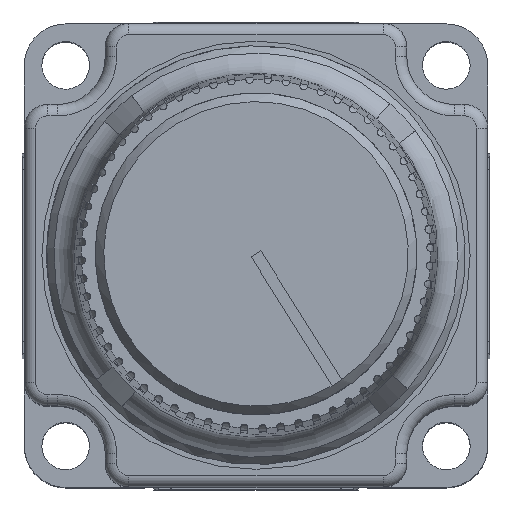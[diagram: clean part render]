
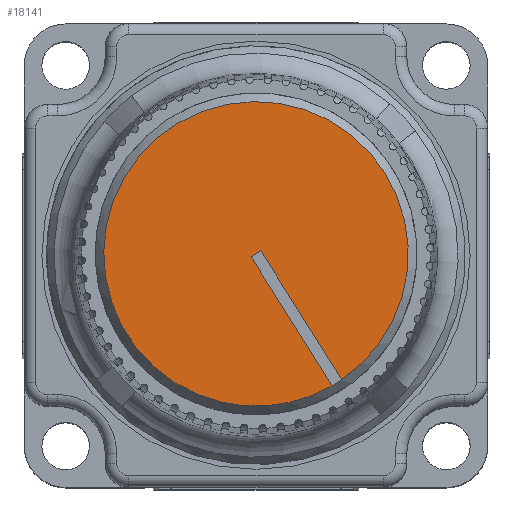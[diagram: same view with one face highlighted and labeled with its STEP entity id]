
A CAD part, top view. The second image highlights one B-rep face of the part: STEP entity #18141.
In plain terms, the highlighted planar face has unit normal (0, 0, 1).
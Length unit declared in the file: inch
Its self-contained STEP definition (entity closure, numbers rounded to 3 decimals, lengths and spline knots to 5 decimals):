
#954=PLANE('',#20078);
#1830=FACE_OUTER_BOUND('',#2928,.T.);
#2928=EDGE_LOOP('',(#14701,#14702,#14703,#14704,#14705));
#3812=CIRCLE('',#20074,0.4);
#3813=CIRCLE('',#20075,0.4);
#4892=LINE('',#35381,#6084);
#4897=LINE('',#35400,#6089);
#4900=LINE('',#35405,#6092);
#6084=VECTOR('',#24711,0.3937);
#6089=VECTOR('',#24722,0.3937);
#6092=VECTOR('',#24727,0.3937);
#7884=VERTEX_POINT('',#35379);
#7885=VERTEX_POINT('',#35380);
#7888=VERTEX_POINT('',#35393);
#7890=VERTEX_POINT('',#35399);
#7892=VERTEX_POINT('',#35409);
#10201=EDGE_CURVE('',#7884,#7885,#4892,.T.);
#10208=EDGE_CURVE('',#7890,#7888,#4897,.T.);
#10211=EDGE_CURVE('',#7885,#7890,#4900,.T.);
#10213=EDGE_CURVE('',#7888,#7892,#3812,.T.);
#10214=EDGE_CURVE('',#7892,#7884,#3813,.T.);
#14701=ORIENTED_EDGE('',*,*,#10208,.T.);
#14702=ORIENTED_EDGE('',*,*,#10213,.T.);
#14703=ORIENTED_EDGE('',*,*,#10214,.T.);
#14704=ORIENTED_EDGE('',*,*,#10201,.T.);
#14705=ORIENTED_EDGE('',*,*,#10211,.T.);
#18141=ADVANCED_FACE('',(#1830),#954,.T.);
#20074=AXIS2_PLACEMENT_3D('',#35410,#24733,#24734);
#20075=AXIS2_PLACEMENT_3D('',#35411,#24735,#24736);
#20078=AXIS2_PLACEMENT_3D('',#35417,#24742,#24743);
#24711=DIRECTION('',(-0.532,0.847,0.));
#24722=DIRECTION('',(0.532,-0.847,0.));
#24727=DIRECTION('',(0.847,0.532,0.));
#24733=DIRECTION('center_axis',(0.,0.,1.));
#24734=DIRECTION('ref_axis',(0.847,0.532,0.));
#24735=DIRECTION('center_axis',(0.,0.,1.));
#24736=DIRECTION('ref_axis',(0.847,0.532,0.));
#24742=DIRECTION('center_axis',(0.,0.,1.));
#24743=DIRECTION('ref_axis',(1.,0.,0.));
#35379=CARTESIAN_POINT('',(0.07012,-0.34036,1.8705));
#35380=CARTESIAN_POINT('',(-0.14237,-0.0018,1.8705));
#35381=CARTESIAN_POINT('',(0.07012,-0.34036,1.8705));
#35393=CARTESIAN_POINT('',(0.09553,-0.32441,1.8705));
#35399=CARTESIAN_POINT('',(-0.11696,0.01415,1.8705));
#35400=CARTESIAN_POINT('',(-0.11696,0.01415,1.8705));
#35405=CARTESIAN_POINT('',(-0.14237,-0.0018,1.8705));
#35409=CARTESIAN_POINT('',(-0.28183,-0.36375,1.8705));
#35410=CARTESIAN_POINT('Origin',(-0.12967,0.00618,1.8705));
#35411=CARTESIAN_POINT('Origin',(-0.12967,0.00618,1.8705));
#35417=CARTESIAN_POINT('Origin',(-0.47844,-0.20966,
1.8705));
